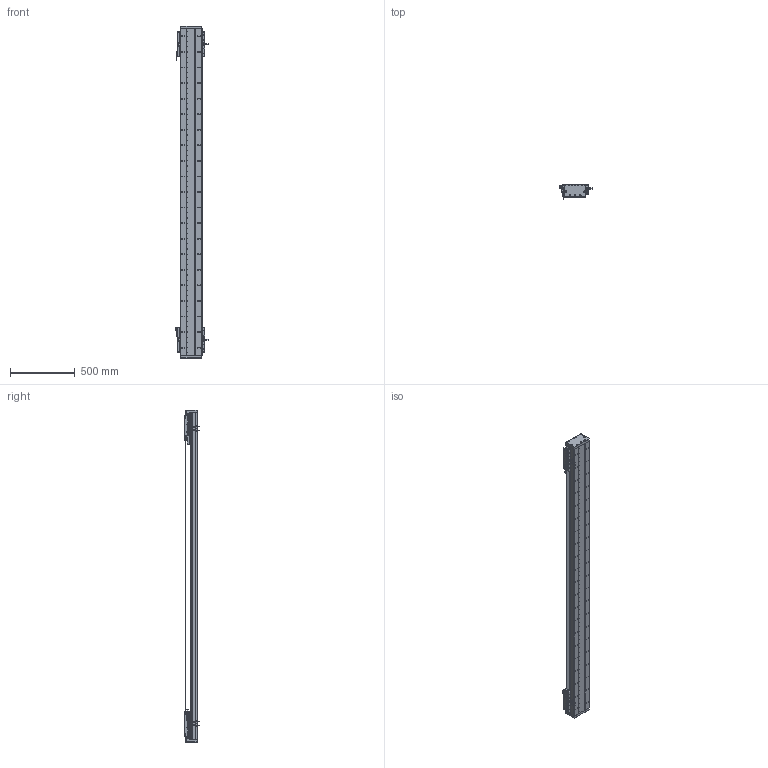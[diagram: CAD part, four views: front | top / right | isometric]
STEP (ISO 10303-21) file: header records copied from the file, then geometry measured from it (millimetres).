
FILE_DESCRIPTION (( 'STEP AP203' ), '1' );
FILE_NAME ('DA-C165-2-C2-T2060-C010-0.2 直线电机.STEP', '2023-05-11T08:26:29', ( '微软用户' ), ( '微软中国' ), 'SwSTEP 2.0', 'SolidWorks 2019', '' );
FILE_SCHEMA (( 'CONFIG_CONTROL_DESIGN' ));
Length unit declared in the file: millimetre
Products named in the file (22): 复件 DA165-GD-DG-H-00 端盖^复件 CU165钢带组件_DA-C165-C2-T-C010-0.2-N 直线电机; 复件 DMA-010-0.2 读数头^DA-C165-C2-T-C010-0.2-N 直线电机; 复件 DA165-GDYK-00 钢带压块^复件 CU165钢带组件_DA-C165-C2-T-C010-0.2-N 直线电机; 复件 六角薄螺母 M3^DA-C165-C2-T-C010-0.2-N 直线电机_GB_FASTENER_NUT_STNAB M3-C; DA-C165-2-C2-T2060-C010-0.2 眻盄萇儂; 珨极趙賑雄怢啣wf-C2; 复件 CKM02-W075-C1C2-TP-3.0 一体电机-C2^DA-C165-C2-T-C010-0.2-N 直线电机; 葩璃 PM-Y45^DA-C165-C2-T-C010-0.2-N 眻盄萇儂; 复件 DA95-HXJ-00 缓冲橡胶^DA-C165-C2-T-C010-0.2-N 直线电机; 葩璃 DA95-GT-T-00^IU-CU165-L 菁釱絳寢_T; IU-CU165-L-00 菁釱_L2520; 复件 DA165-GYP-00 光电感应片^DA-C165-C2-T-C010-0.2-N 直线电机; 葩璃 PM-T45^DA-C165-C2-T-C010-0.2-N 眻盄萇儂; 复件 DA126-GYP-ZJ-00 中间光电感应片^DA-C165-C2-T-C010-0.2-N 直线电机; 复件 XD-U-02L 磁栅尺^DA-C165-C2-T-C010-0.2-N 直线电机_T; 复件 DKW-HXJ-JY-00 缓冲橡胶^DA-C165-C2-T-C010-0.2-N 直线电机; 葩璃 CKM01-W075-TRL^DA-C165-C2-T-C010-0.2-N 眻盄萇儂; IU-CU165-L 菁釱絳寢; 复件 CU165钢带组件^DA-C165-C2-T-C010-0.2-N 直线电机; 复件 DA165-GDLK-00 钢带拉块^复件 CU165钢带组件_DA-C165-C2-T-C010-0.2-N 直线电机; 复件 DA165-GD-1860-002-00 钢带盖板^复件 CU165钢带组件_DA-C165-C2-T-C010-0.2-N 直线电机; 复件 66338-1000-006-00 光电感应块^DA-C165-C2-T-C010-0.2-N 直线电机
Assembly tree (43 placements, depth 3):
  DA-C165-2-C2-T2060-C010-0.2 眻盄萇儂
    IU-CU165-L 菁釱絳寢
      IU-CU165-L-00 菁釱_L2520
      葩璃 DA95-GT-T-00^IU-CU165-L 菁釱絳寢_T  x4
    复件 XD-U-02L 磁栅尺^DA-C165-C2-T-C010-0.2-N 直线电机_T
    葩璃 PM-T45^DA-C165-C2-T-C010-0.2-N 眻盄萇儂  x4
    葩璃 CKM01-W075-TRL^DA-C165-C2-T-C010-0.2-N 眻盄萇儂
    复件 CU165钢带组件^DA-C165-C2-T-C010-0.2-N 直线电机
      复件 DA165-GD-DG-H-00 端盖^复件 CU165钢带组件_DA-C165-C2-T-C010-0.2-N 直线电机  x2
      复件 DA165-GDYK-00 钢带压块^复件 CU165钢带组件_DA-C165-C2-T-C010-0.2-N 直线电机  x2
      复件 DA165-GD-1860-002-00 钢带盖板^复件 CU165钢带组件_DA-C165-C2-T-C010-0.2-N 直线电机
      复件 DA165-GDLK-00 钢带拉块^复件 CU165钢带组件_DA-C165-C2-T-C010-0.2-N 直线电机  x2
    复件 DA95-HXJ-00 缓冲橡胶^DA-C165-C2-T-C010-0.2-N 直线电机  x4
    复件 CKM02-W075-C1C2-TP-3.0 一体电机-C2^DA-C165-C2-T-C010-0.2-N 直线电机  x2
    复件 DMA-010-0.2 读数头^DA-C165-C2-T-C010-0.2-N 直线电机  x2
    复件 DA165-GYP-00 光电感应片^DA-C165-C2-T-C010-0.2-N 直线电机  x2
    复件 66338-1000-006-00 光电感应块^DA-C165-C2-T-C010-0.2-N 直线电机
    葩璃 PM-Y45^DA-C165-C2-T-C010-0.2-N 眻盄萇儂
    复件 DA126-GYP-ZJ-00 中间光电感应片^DA-C165-C2-T-C010-0.2-N 直线电机
    复件 DKW-HXJ-JY-00 缓冲橡胶^DA-C165-C2-T-C010-0.2-N 直线电机  x2
    复件 六角薄螺母 M3^DA-C165-C2-T-C010-0.2-N 直线电机_GB_FASTENER_NUT_STNAB M3-C  x6
    珨极趙賑雄怢啣wf-C2  x2
Bounding box: 247.2 x 111.45 x 2560 mm (x, y, z)
Volume: 15887218.9 mm3; surface area: 4594265.1 mm2
Topology: 119 solids, 119 shells, 5615 faces, 15728 edges, 9918 vertices
Faces by surface type: cylinder 3020, plane 1803, cone 704, torus 80, sphere 8
Entity records: 133984 total; most frequent: CARTESIAN_POINT 35513, ORIENTED_EDGE 20400, DIRECTION 19720, EDGE_CURVE 10200, AXIS2_PLACEMENT_3D 7482, VERTEX_POINT 6655, LINE 4756, VECTOR 4756
